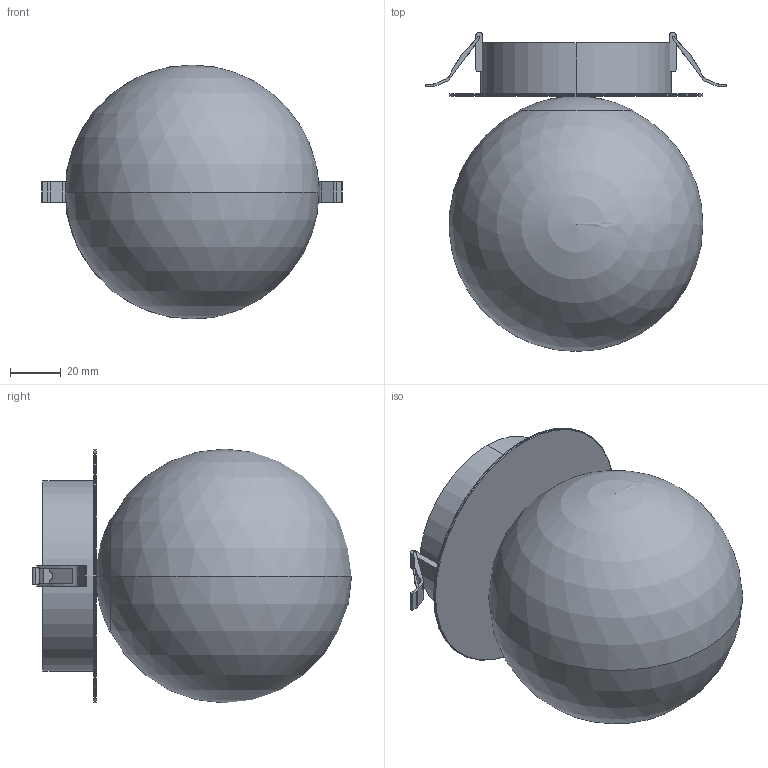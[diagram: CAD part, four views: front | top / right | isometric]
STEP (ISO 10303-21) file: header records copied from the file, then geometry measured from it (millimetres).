
FILE_DESCRIPTION (( 'STEP AP214' ), '1' );
FILE_NAME ('BALL_DIAM10_empotrable.STEP', '2026-03-30T08:05:55', ( '' ), ( '' ), 'SwSTEP 2.0', 'SolidWorks 2023', '' );
FILE_SCHEMA (( 'AUTOMOTIVE_DESIGN' ));
Length unit declared in the file: millimetre
Products named in the file (3): diam 10 bola ball; BALL_DIAM10_empotrable; EP1279
Assembly tree (2 placements, depth 2):
  BALL_DIAM10_empotrable
    EP1279
    diam 10 bola ball
Bounding box: 118.33 x 125.64 x 100 mm (x, y, z)
Volume: 545461.3 mm3; surface area: 58425.2 mm2
Topology: 6 solids, 6 shells, 102 faces, 261 edges, 172 vertices
Faces by surface type: plane 54, cylinder 38, bspline 4, torus 4, sphere 2
Entity records: 3274 total; most frequent: CARTESIAN_POINT 628, DIRECTION 548, ORIENTED_EDGE 512, EDGE_CURVE 256, AXIS2_PLACEMENT_3D 199, VERTEX_POINT 169, VECTOR 150, LINE 150
